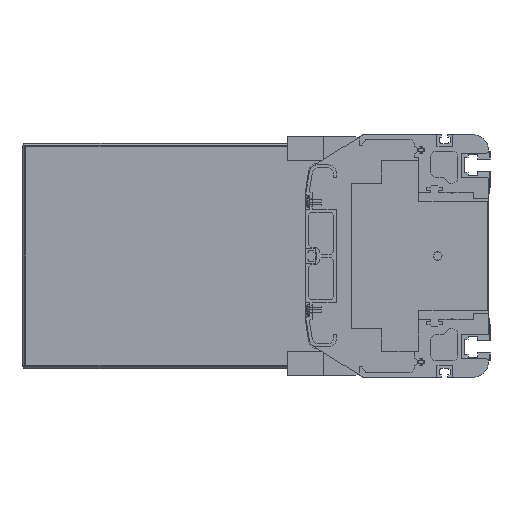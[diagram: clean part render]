
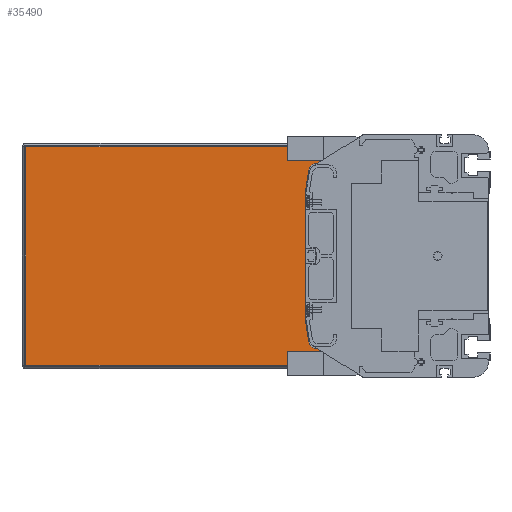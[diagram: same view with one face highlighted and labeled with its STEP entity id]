
A CAD part, left-side view. The second image highlights one B-rep face of the part: STEP entity #35490.
In plain terms, the highlighted planar face has unit normal (-1, 0, 0).
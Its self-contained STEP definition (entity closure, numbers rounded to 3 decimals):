
#2824=DIRECTION('',(0.,0.,-1.));
#2825=VECTOR('',#2824,11.);
#2826=CARTESIAN_POINT('',(3486.5,86.,-61.));
#2827=LINE('',#2826,#2825);
#2833=DIRECTION('',(0.,0.,-1.));
#2834=VECTOR('',#2833,11.);
#2835=CARTESIAN_POINT('',(3486.5,86.,72.));
#2836=LINE('',#2835,#2834);
#2846=DIRECTION('',(0.,-1.,0.));
#2847=VECTOR('',#2846,220.5);
#2848=CARTESIAN_POINT('',(3486.5,306.5,-72.));
#2849=LINE('',#2848,#2847);
#7876=DIRECTION('',(0.,1.,0.));
#7877=VECTOR('',#7876,28.728);
#7878=CARTESIAN_POINT('',(3486.5,86.,-61.));
#7879=LINE('',#7878,#7877);
#14122=DIRECTION('',(0.,-1.,0.));
#14123=VECTOR('',#14122,28.728);
#14124=CARTESIAN_POINT('',(3486.5,114.728,61.));
#14125=LINE('',#14124,#14123);
#14138=DIRECTION('',(0.,0.,1.));
#14139=VECTOR('',#14138,84.);
#14140=CARTESIAN_POINT('',(3486.5,122.,-42.));
#14141=LINE('',#14140,#14139);
#14150=CARTESIAN_POINT('',(3486.5,114.728,56.));
#14151=DIRECTION('',(-1.,0.,0.));
#14152=DIRECTION('',(0.,0.,1.));
#14153=AXIS2_PLACEMENT_3D('',#14150,#14151,#14152);
#14155=DIRECTION('',(0.,0.156,-0.988));
#14156=VECTOR('',#14155,14.963);
#14157=CARTESIAN_POINT('',(3486.5,119.666,56.78));
#14158=LINE('',#14157,#14156);
#14159=DIRECTION('',(0.,-0.156,-0.988));
#14160=VECTOR('',#14159,14.963);
#14161=CARTESIAN_POINT('',(3486.5,122.,-42.));
#14162=LINE('',#14161,#14160);
#14163=CARTESIAN_POINT('',(3486.5,114.728,-56.));
#14164=DIRECTION('',(-1.,0.,0.));
#14165=DIRECTION('',(0.,0.988,-0.156));
#14166=AXIS2_PLACEMENT_3D('',#14163,#14164,#14165);
#14172=DIRECTION('',(0.,0.,-1.));
#14173=VECTOR('',#14172,144.);
#14174=CARTESIAN_POINT('',(3486.5,306.5,72.));
#14175=LINE('',#14174,#14173);
#14341=DIRECTION('',(0.,1.,0.));
#14342=VECTOR('',#14341,220.5);
#14343=CARTESIAN_POINT('',(3486.5,86.,72.));
#14344=LINE('',#14343,#14342);
#17384=CARTESIAN_POINT('',(3486.5,306.5,-72.));
#17385=CARTESIAN_POINT('',(3486.5,86.,-72.));
#17386=VERTEX_POINT('',#17384);
#17387=VERTEX_POINT('',#17385);
#17388=CARTESIAN_POINT('',(3486.5,86.,-61.));
#17389=VERTEX_POINT('',#17388);
#17390=CARTESIAN_POINT('',(3486.5,114.728,-61.));
#17391=VERTEX_POINT('',#17390);
#17392=CARTESIAN_POINT('',(3486.5,119.666,-56.78));
#17393=VERTEX_POINT('',#17392);
#17394=CARTESIAN_POINT('',(3486.5,122.,-42.));
#17395=VERTEX_POINT('',#17394);
#17396=CARTESIAN_POINT('',(3486.5,122.,42.));
#17397=VERTEX_POINT('',#17396);
#17398=CARTESIAN_POINT('',(3486.5,119.666,56.78));
#17399=VERTEX_POINT('',#17398);
#17400=CARTESIAN_POINT('',(3486.5,114.728,61.));
#17401=VERTEX_POINT('',#17400);
#17402=CARTESIAN_POINT('',(3486.5,86.,61.));
#17403=VERTEX_POINT('',#17402);
#17404=CARTESIAN_POINT('',(3486.5,86.,72.));
#17405=VERTEX_POINT('',#17404);
#17406=CARTESIAN_POINT('',(3486.5,306.5,72.));
#17407=VERTEX_POINT('',#17406);
#35467=CARTESIAN_POINT('',(3486.5,196.25,0.));
#35468=DIRECTION('',(1.,0.,0.));
#35469=DIRECTION('',(0.,0.,-1.));
#35470=AXIS2_PLACEMENT_3D('',#35467,#35468,#35469);
#35471=PLANE('',#35470);
#35472=ORIENTED_EDGE('',*,*,#22628,.F.);
#35474=ORIENTED_EDGE('',*,*,#35473,.F.);
#35476=ORIENTED_EDGE('',*,*,#35475,.F.);
#35477=ORIENTED_EDGE('',*,*,#22610,.T.);
#35478=ORIENTED_EDGE('',*,*,#35419,.F.);
#35479=ORIENTED_EDGE('',*,*,#35432,.T.);
#35480=ORIENTED_EDGE('',*,*,#35448,.T.);
#35481=ORIENTED_EDGE('',*,*,#35458,.F.);
#35483=ORIENTED_EDGE('',*,*,#35482,.T.);
#35485=ORIENTED_EDGE('',*,*,#35484,.T.);
#35486=ORIENTED_EDGE('',*,*,#26996,.F.);
#35487=ORIENTED_EDGE('',*,*,#22578,.T.);
#35488=EDGE_LOOP('',(#35472,#35474,#35476,#35477,#35478,#35479,#35480,#35481,
#35483,#35485,#35486,#35487));
#35489=FACE_OUTER_BOUND('',#35488,.F.);
#35490=ADVANCED_FACE('',(#35489),#35471,.F.);
#14154=CIRCLE('',#14153,5.);
#14167=CIRCLE('',#14166,5.);
#22578=EDGE_CURVE('',#17389,#17387,#2827,.T.);
#22610=EDGE_CURVE('',#17405,#17403,#2836,.T.);
#22628=EDGE_CURVE('',#17386,#17387,#2849,.T.);
#26996=EDGE_CURVE('',#17389,#17391,#7879,.T.);
#35419=EDGE_CURVE('',#17401,#17403,#14125,.T.);
#35432=EDGE_CURVE('',#17401,#17399,#14154,.T.);
#35448=EDGE_CURVE('',#17399,#17397,#14158,.T.);
#35458=EDGE_CURVE('',#17395,#17397,#14141,.T.);
#35473=EDGE_CURVE('',#17407,#17386,#14175,.T.);
#35475=EDGE_CURVE('',#17405,#17407,#14344,.T.);
#35482=EDGE_CURVE('',#17395,#17393,#14162,.T.);
#35484=EDGE_CURVE('',#17393,#17391,#14167,.T.);
